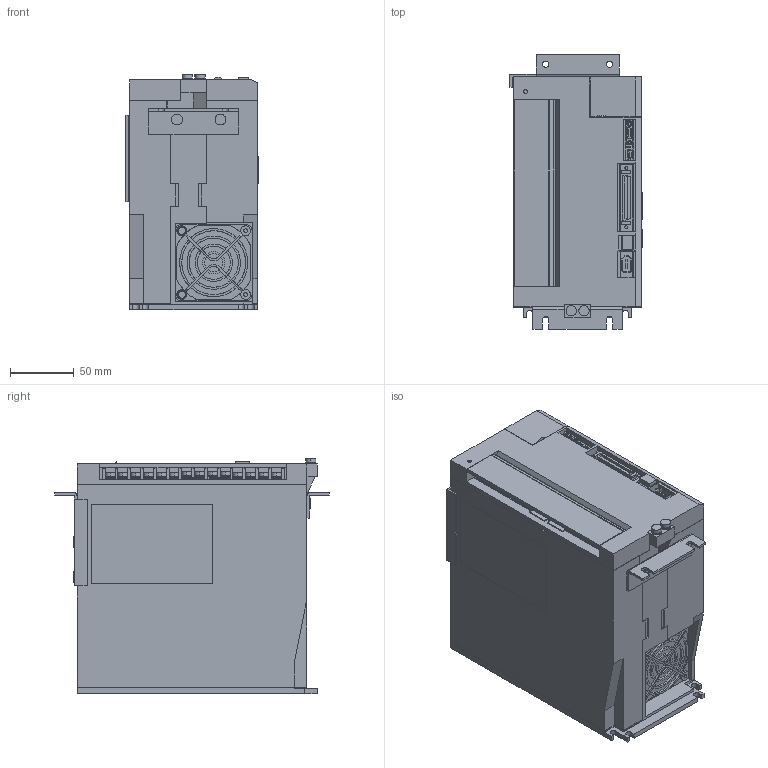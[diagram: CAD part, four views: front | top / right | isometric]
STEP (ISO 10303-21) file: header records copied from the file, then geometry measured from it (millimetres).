
FILE_DESCRIPTION (( 'STEP AP203' ), '1' );
FILE_NAME ('sgd7s_200a00a001.STEP', '2015-09-18T08:25:46', ( '匠エンジニアリング山之内' ), ( 'TAKUMI-Engniaring' ), 'SwSTEP 2.0', 'SolidWorks 2006303', '' );
FILE_SCHEMA (( 'CONFIG_CONTROL_DESIGN' ));
Products named in the file (9): sgd7s_200a00a001_terminal; sgd7s_200a00a001_mount1; sgd7s_200a00a001; sgd7s_200a00a001_base; sgd7s_200a00a001_cover; sgd7s_200a00a001_cover2; sgd7s_200a00a001_connector; sgd7s_200a00a001_cover3; sgd7s_200a00a001_mount2
Assembly tree (10 placements, depth 2):
  sgd7s_200a00a001
    sgd7s_200a00a001_base
    sgd7s_200a00a001_cover2  x2
    sgd7s_200a00a001_connector
    sgd7s_200a00a001_cover3
    sgd7s_200a00a001_cover
    sgd7s_200a00a001_mount1
    sgd7s_200a00a001_terminal  x2
    sgd7s_200a00a001_mount2
Bounding box: 103.5 x 215 x 184.6 mm (x, y, z)
Volume: 3128292.9 mm3; surface area: 217171.3 mm2
Topology: 10 solids, 10 shells, 1946 faces, 5102 edges, 3350 vertices
Faces by surface type: plane 1543, cylinder 398, cone 4, sphere 1
Entity records: 59261 total; most frequent: CARTESIAN_POINT 10202, ORIENTED_EDGE 10000, DIRECTION 9768, EDGE_CURVE 5000, LINE 4072, VECTOR 4072, VERTEX_POINT 3282, AXIS2_PLACEMENT_3D 2848
